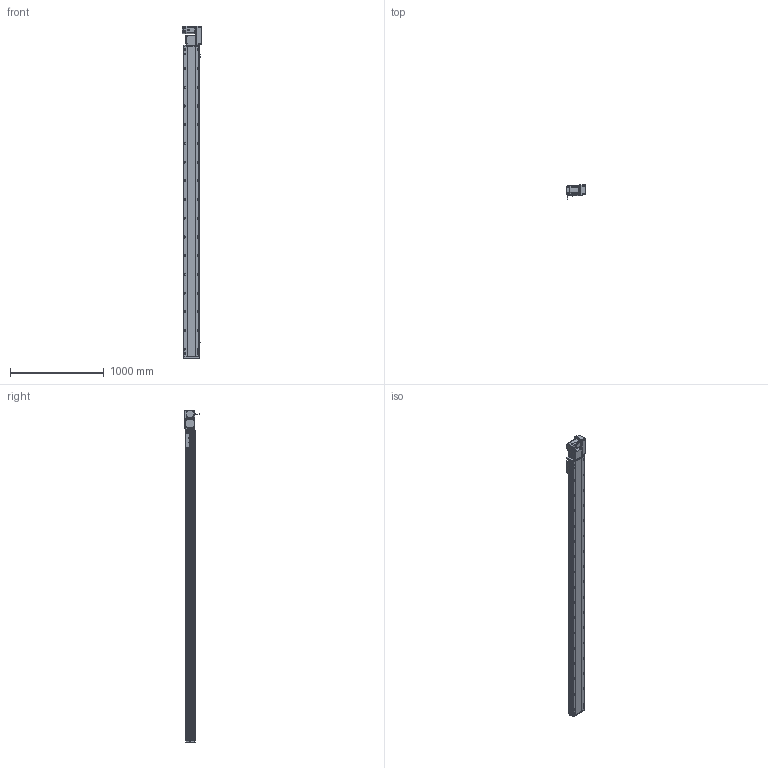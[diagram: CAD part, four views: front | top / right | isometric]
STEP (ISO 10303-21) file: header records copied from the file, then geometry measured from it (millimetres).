
FILE_DESCRIPTION (( 'STEP AP214' ), '1' );
FILE_NAME ('RTB17S-XX-3050-R-M75-C4.STEP', '2025-12-12T01:51:11', ( '' ), ( '' ), 'SwSTEP 2.0', 'SolidWorks 2018', '' );
FILE_SCHEMA (( 'AUTOMOTIVE_DESIGN' ));
Length unit declared in the file: millimetre
Products named in the file (15): RTB22S-GY-018P^RTB17S-R-々湍釱蚾饜-750W_RTB17S-XX-XX-R-M75-C4; RTB17S-L-004-賑釱^RTB17S-賑釱_RTB17S-XX-XX-R-M75-C4; RTB17S-L-014-T20-P75--々湍釱^RTB17S-R-々湍釱蚾饜-750W_RTB17S-XX-XX-R-M75-C4; RTH13-BL-012覜茼え俋离^RTB17S-賑釱_RTB17S-XX-XX-R-M75-C4; RTB22S-GY-017P^RTB17S-R-々湍釱蚾饜-750W_RTB17S-XX-XX-R-M75-C4; EE672^RTB17S-XX-XX-R-M75-C4; RTB22S-GY-005P^RTB17S-R-々湍釱蚾饜-750W_RTB17S-XX-XX-R-M75-C4; RTB17S-R-々湍釱蚾饜-750W^RTB17S-XX-XX-R-M75-C4; RTB17S-L-007奻裔^RTB17S-XX-XX-R-M75-C4; 750W萇儂^RTB17S-XX-XX-R-M75-C4; RTB17S-XX-3050-R-M75-C4; RTB17S-賑釱^RTB17S-XX-XX-R-M75-C4; RTB22S-GY-008-M75--萇儂啣^RTB17S-R-々湍釱蚾饜-750W_RTB17S-XX-XX-R-M75-C4; RTB17-R-011菁釱^RTB17S-XX-XX-R-M75-C4; RTB17S-L-001-耜醱啣^RTB17S-XX-XX-R-M75-C4
Assembly tree (17 placements, depth 3):
  RTB17S-XX-3050-R-M75-C4
    RTB17-R-011菁釱^RTB17S-XX-XX-R-M75-C4
    EE672^RTB17S-XX-XX-R-M75-C4  x3
    RTB17S-L-001-耜醱啣^RTB17S-XX-XX-R-M75-C4
    RTB17S-賑釱^RTB17S-XX-XX-R-M75-C4
      RTB17S-L-004-賑釱^RTB17S-賑釱_RTB17S-XX-XX-R-M75-C4
      RTH13-BL-012覜茼え俋离^RTB17S-賑釱_RTB17S-XX-XX-R-M75-C4
    RTB17S-L-007奻裔^RTB17S-XX-XX-R-M75-C4
    750W萇儂^RTB17S-XX-XX-R-M75-C4
    RTB17S-R-々湍釱蚾饜-750W^RTB17S-XX-XX-R-M75-C4
      RTB17S-L-014-T20-P75--々湍釱^RTB17S-R-々湍釱蚾饜-750W_RTB17S-XX-XX-R-M75-C4
      RTB22S-GY-005P^RTB17S-R-々湍釱蚾饜-750W_RTB17S-XX-XX-R-M75-C4
      RTB22S-GY-017P^RTB17S-R-々湍釱蚾饜-750W_RTB17S-XX-XX-R-M75-C4  x2
      RTB22S-GY-008-M75--萇儂啣^RTB17S-R-々湍釱蚾饜-750W_RTB17S-XX-XX-R-M75-C4
      RTB22S-GY-018P^RTB17S-R-々湍釱蚾饜-750W_RTB17S-XX-XX-R-M75-C4
Bounding box: 207.4 x 152.7 x 3549 mm (x, y, z)
Volume: 25010772.5 mm3; surface area: 4590792.6 mm2
Topology: 17 solids, 17 shells, 2265 faces, 6376 edges, 4130 vertices
Faces by surface type: plane 992, cylinder 857, bspline 294, cone 110, sphere 8, torus 4
Entity records: 66550 total; most frequent: CARTESIAN_POINT 19840, ORIENTED_EDGE 9596, DIRECTION 8852, EDGE_CURVE 4798, AXIS2_PLACEMENT_3D 3150, VERTEX_POINT 3134, LINE 2552, VECTOR 2552
